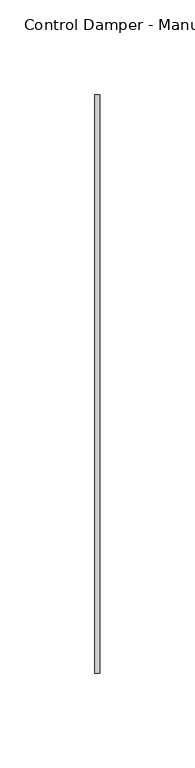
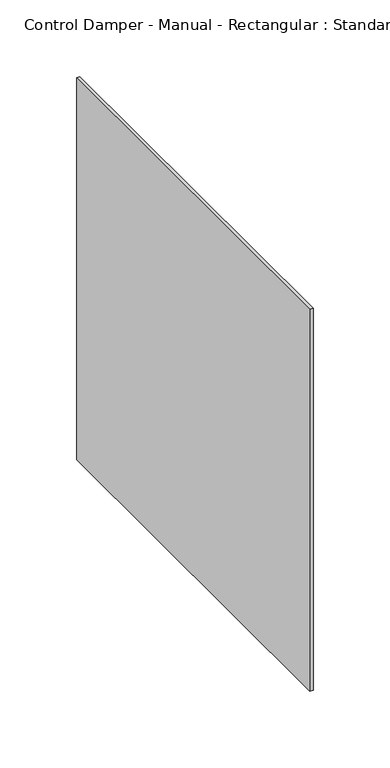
"""IFC4 building model written with IfcOpenShell, lengths in millimetres: damper geometry, Control Damper - Manual - Rectangular : Standard."""

from ifc_helpers import new_model, si_unit, frame, origin, place, context, project, spatial, polyline, outline, extrude, source, transform, mapped, element, save


def control_damper_manual_rectangular_standard_d6b0e73d(model_context):
    return source(origin(), model_context, "Body", "SweptSolid", [
        extrude(outline(polyline([(1.2898438, 152.4), (1.2898438, -152.4), (-1.2898438, -152.4), (-1.2898438, 152.4), (1.2898438, 152.4)])), frame((0.0, 0.0, -152.4), z_axis=(0.0, 0.0, 1.0), x_axis=(1.0, 0.0, 0.0)), (0.0, 0.0, 1.0), 304.8),
    ])


if __name__ == "__main__":
    model = new_model("IFC4")
    model_context = context("Model", 3, world=origin())
    ifc_project = project(units=[si_unit("LENGTHUNIT", "METRE", prefix="MILLI")], contexts=[model_context])
    site = spatial("IfcSite", under=ifc_project)
    building = spatial("IfcBuilding", under=site)
    placement = place(None, origin())
    control_damper_manual_rectangular_standard_shape = control_damper_manual_rectangular_standard_d6b0e73d(model_context)
    element("IfcDamper", 1, ObjectType="Control Damper - Manual - Rectangular : Standard", at=placement, inside=building, context=model_context, shape_type="MappedRepresentation", body=[
        mapped(control_damper_manual_rectangular_standard_shape, transform((0.0, 0.0, 0.0), x_axis=(1.0, 0.0, 0.0), y_axis=(0.0, 1.0, 0.0), z_axis=(0.0, 0.0, 1.0))),
    ])
    save(model, "model.ifc")
